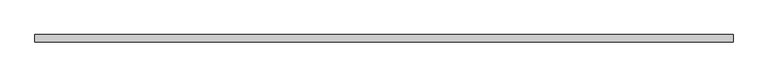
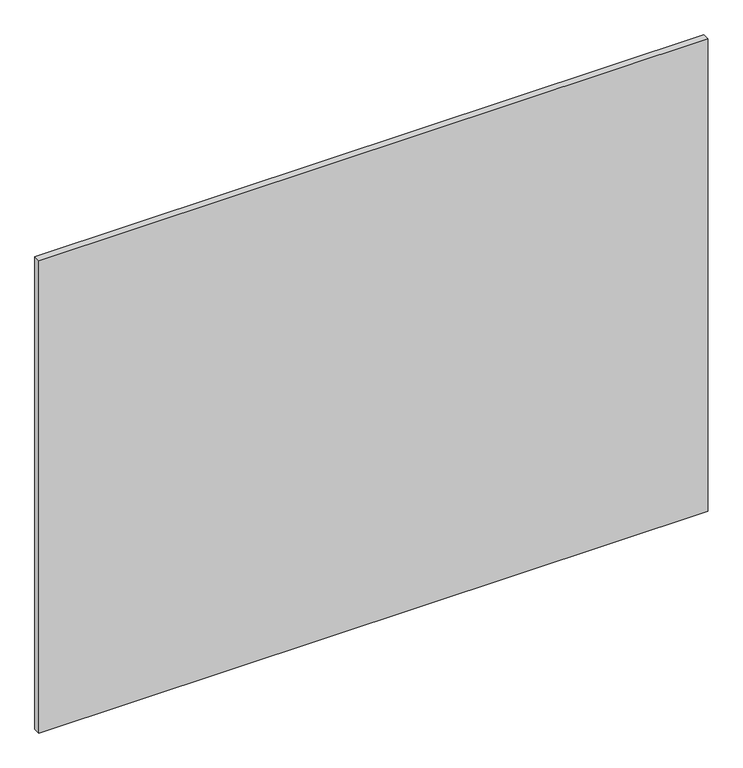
"""IFC4 building model written with IfcOpenShell, lengths in millimetres: proxy geometry, AQUAPANEL showcase solid : AQUAPANEL showcase solid."""

from ifc_helpers import new_model, si_unit, frame, origin, place, context, project, spatial, polyline, outline, extrude, source, transform, mapped, element, save


def generic_models_fae4cfcb(model_context):
    return source(origin(), model_context, "Body", "SweptSolid", [
        extrude(outline(polyline([(17676.8645103, 15445.8863455), (18870.1483542, 15445.8863455), (18870.1483542, 15433.3863455), (17676.8645103, 15433.3863455), (17676.8645103, 15445.8863455)])), frame((0.0, 0.0, 198.4819427), z_axis=(0.0, 0.0, 1.0), x_axis=(1.0, 0.0, 0.0)), (0.0, 0.0, 1.0), 890.8408155),
    ])


if __name__ == "__main__":
    model = new_model("IFC4")
    model_context = context("Model", 3, world=origin())
    ifc_project = project(units=[si_unit("LENGTHUNIT", "METRE", prefix="MILLI")], contexts=[model_context])
    site = spatial("IfcSite", under=ifc_project)
    building = spatial("IfcBuilding", under=site)
    placement = place(None, origin())
    generic_models_shape = generic_models_fae4cfcb(model_context)
    element("IfcBuildingElementProxy", 1, Name="AQUAPANEL showcase solid : AQUAPANEL showcase solid", ObjectType="AQUAPANEL showcase solid : AQUAPANEL showcase solid", at=placement, inside=building, context=model_context, shape_type="MappedRepresentation", body=[
        mapped(generic_models_shape, transform((0.0, 0.0, 0.0), x_axis=(1.0, 0.0, 0.0), y_axis=(0.0, 1.0, 0.0), z_axis=(0.0, 0.0, 1.0))),
    ])
    save(model, "model.ifc")
